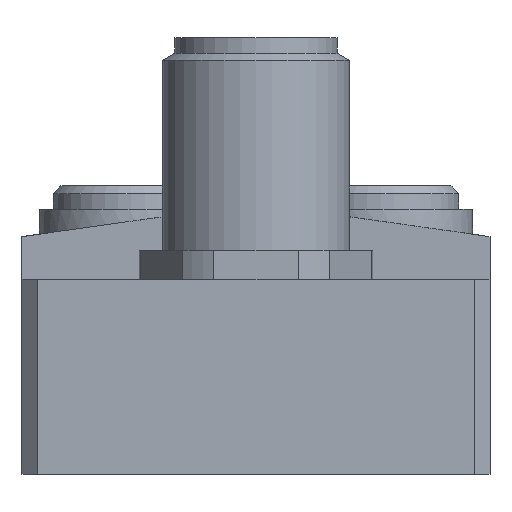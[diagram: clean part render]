
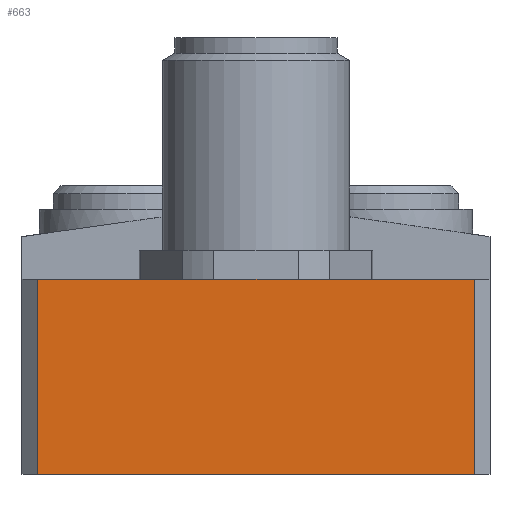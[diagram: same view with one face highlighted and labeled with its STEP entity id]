
A CAD part, front view. The second image highlights one B-rep face of the part: STEP entity #663.
In plain terms, the highlighted planar face has unit normal (0, -1, 0).
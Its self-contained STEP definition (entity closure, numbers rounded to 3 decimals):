
#663 = ADVANCED_FACE( '', ( #2016 ), #2017, .F. );
#2016 = FACE_OUTER_BOUND( '', #3411, .T. );
#2017 = PLANE( '', #3412 );
#3411 = EDGE_LOOP( '', ( #8150, #8151, #8152, #8153 ) );
#3412 = AXIS2_PLACEMENT_3D( '', #8154, #8155, #8156 );
#8150 = ORIENTED_EDGE( '', *, *, #8497, .T. );
#8151 = ORIENTED_EDGE( '', *, *, #9975, .T. );
#8152 = ORIENTED_EDGE( '', *, *, #9976, .T. );
#8153 = ORIENTED_EDGE( '', *, *, #9973, .F. );
#8154 = CARTESIAN_POINT( '', ( -14., 0., 30. ) );
#8155 = DIRECTION( '', ( 0., 1., 0. ) );
#8156 = DIRECTION( '', ( 0., 0., 1. ) );
#8497 = EDGE_CURVE( '', #10091, #10089, #10092, .T. );
#9973 = EDGE_CURVE( '', #10091, #12586, #12587, .T. );
#9975 = EDGE_CURVE( '', #10089, #12589, #12590, .T. );
#9976 = EDGE_CURVE( '', #12589, #12586, #12591, .T. );
#10089 = VERTEX_POINT( '', #12735 );
#10091 = VERTEX_POINT( '', #12738 );
#10092 = LINE( '', #12739, #12740 );
#12586 = VERTEX_POINT( '', #16473 );
#12587 = LINE( '', #16474, #16475 );
#12589 = VERTEX_POINT( '', #16478 );
#12590 = LINE( '', #16479, #16480 );
#12591 = LINE( '', #16481, #16482 );
#12735 = CARTESIAN_POINT( '', ( -14., 0., 12.5 ) );
#12738 = CARTESIAN_POINT( '', ( 14., 0., 12.5 ) );
#12739 = CARTESIAN_POINT( '', ( 15., 0., 12.5 ) );
#12740 = VECTOR( '', #16611, 1000. );
#16473 = CARTESIAN_POINT( '', ( 14., 0., 0. ) );
#16474 = CARTESIAN_POINT( '', ( 14., 0., 30. ) );
#16475 = VECTOR( '', #18559, 1000. );
#16478 = CARTESIAN_POINT( '', ( -14., 0., 0. ) );
#16479 = CARTESIAN_POINT( '', ( -14., 0., 30. ) );
#16480 = VECTOR( '', #18561, 1000. );
#16481 = CARTESIAN_POINT( '', ( -14., 0., 0. ) );
#16482 = VECTOR( '', #18562, 1000. );
#16611 = DIRECTION( '', ( -1., 0., 0. ) );
#18559 = DIRECTION( '', ( 0., 0., -1. ) );
#18561 = DIRECTION( '', ( 0., 0., -1. ) );
#18562 = DIRECTION( '', ( 1., 0., 0. ) );
